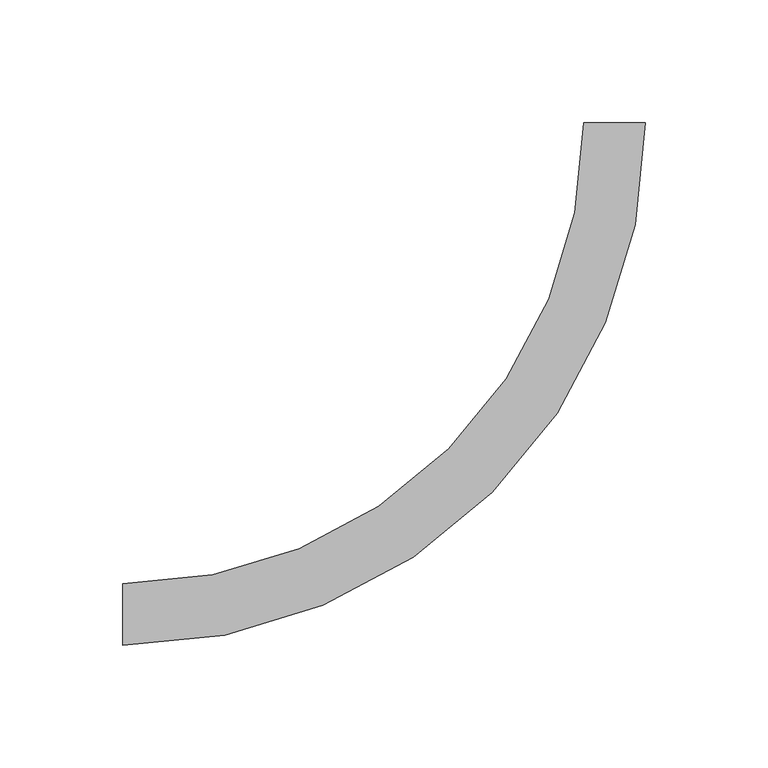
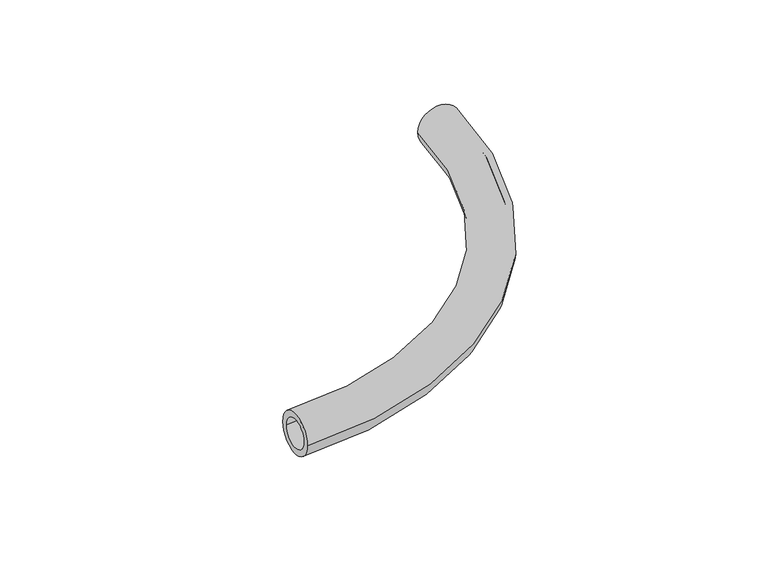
"""IFC4 building model written with IfcOpenShell, lengths in millimetres: pipe fitting geometry, FASTLOC_ML_bend : FSL ML AT."""

from ifc_helpers import new_model, si_unit, point, frame, origin, place, context, project, spatial, circle_curve, ellipse_curve, trimmed, source, transform, mapped, element, save
from ifc_brep_helpers import plane_surface, revolved_surface, advanced_brep


def pipe_fitting_31065531(model_context):
    return source(origin(), model_context, "Body", "AdvancedBrep", [
        advanced_brep(
        [(-200.0, -12.5, 0.0), (-200.0, 12.5, 0.0), (-200.0, -8.8, 0.0), (-200.0, 8.8, 0.0), (12.5, 200.0, 0.0), (-12.5, 200.0, 0.0), (8.8, 200.0, 0.0), (-8.8, 200.0, 0.0)],
        [
            (0, 1, circle_curve(frame((-200.0, 0.0, 0.0), z_axis=(-1.0, 0.0, 0.0), x_axis=(0.0, 1.0, 0.0)), 12.5)),
            (1, 0, circle_curve(frame((-200.0, 0.0, 0.0), z_axis=(-1.0, 0.0, 0.0), x_axis=(0.0, 1.0, 0.0)), 12.5)),
            (2, 3, circle_curve(frame((-200.0, 0.0, 0.0), z_axis=(1.0, 0.0, 0.0), x_axis=(0.0, 1.0, 0.0)), 8.8)),
            (3, 2, circle_curve(frame((-200.0, 0.0, 0.0), z_axis=(1.0, 0.0, 0.0), x_axis=(0.0, 1.0, 0.0)), 8.8)),
            (4, 5, circle_curve(frame((0.0, 200.0, 0.0), z_axis=(0.0, 1.0, 0.0), x_axis=(-1.0, 0.0, 0.0)), 12.5)),
            (5, 4, circle_curve(frame((0.0, 200.0, 0.0), z_axis=(0.0, 1.0, 0.0), x_axis=(-1.0, 0.0, 0.0)), 12.5)),
            (6, 7, circle_curve(frame((0.0, 200.0, 0.0), z_axis=(0.0, -1.0, 0.0), x_axis=(-1.0, 0.0, 0.0)), 8.8)),
            (7, 6, circle_curve(frame((0.0, 200.0, 0.0), z_axis=(0.0, -1.0, 0.0), x_axis=(-1.0, 0.0, 0.0)), 8.8)),
            (7, 3, circle_curve(frame((-200.0, 200.0, 0.0), z_axis=(0.0, 0.0, -1.0), x_axis=(0.0, -1.0, 0.0)), 191.2)),
            (2, 6, circle_curve(frame((-200.0, 200.0, 0.0), z_axis=(0.0, 0.0, 1.0), x_axis=(0.0, -1.0, 0.0)), 208.8)),
            (5, 1, circle_curve(frame((-200.0, 200.0, 0.0), z_axis=(0.0, 0.0, -1.0), x_axis=(0.0, -1.0, 0.0)), 187.5)),
            (0, 4, circle_curve(frame((-200.0, 200.0, 0.0), z_axis=(0.0, 0.0, 1.0), x_axis=(0.0, -1.0, 0.0)), 212.5)),
        ],
        [
            plane_surface(frame((-200.0, 0.0, 0.0), z_axis=(-1.0, 0.0, 0.0), x_axis=(0.0, 0.0, 1.0))),
            plane_surface(frame((0.0, 200.0, 0.0), z_axis=(0.0, 1.0, 0.0), x_axis=(0.0, 0.0, 1.0))),
            revolved_surface(trimmed(ellipse_curve(frame((-200.0, 0.0, 0.0), z_axis=(1.0, 0.0, 0.0), x_axis=(0.0, 1.0, 0.0)), 8.8, 8.8), [point((-200.0, -8.8, 0.0))], [point((-200.0, 8.8, 0.0))], True, "CARTESIAN"), (-200.0, 200.0, 0.0), (0.0, 0.0, 1.0)),
            revolved_surface(trimmed(ellipse_curve(frame((-200.0, 0.0, 0.0), z_axis=(1.0, 0.0, 0.0), x_axis=(0.0, 1.0, 0.0)), 8.8, 8.8), [point((-200.0, 8.8, 0.0))], [point((-200.0, -8.8, 0.0))], True, "CARTESIAN"), (-200.0, 200.0, 0.0), (0.0, 0.0, 1.0)),
            revolved_surface(trimmed(ellipse_curve(frame((-200.0, 0.0, 0.0), z_axis=(-1.0, 0.0, 0.0), x_axis=(0.0, 1.0, 0.0)), 12.5, 12.5), [point((-200.0, -12.5, 0.0))], [point((-200.0, 12.5, 0.0))], True, "CARTESIAN"), (-200.0, 200.0, 0.0), (0.0, 0.0, 1.0)),
            revolved_surface(trimmed(ellipse_curve(frame((-200.0, 0.0, 0.0), z_axis=(-1.0, 0.0, 0.0), x_axis=(0.0, 1.0, 0.0)), 12.5, 12.5), [point((-200.0, 12.5, 0.0))], [point((-200.0, -12.5, 0.0))], True, "CARTESIAN"), (-200.0, 200.0, 0.0), (0.0, 0.0, 1.0)),
        ],
        [
            (0, [[1, 2], [3, 4]]),
            (1, [[5, 6], [7, 8]]),
            (2, [[9, -3, 10, -8]]),
            (3, [[-10, -4, -9, -7]]),
            (4, [[11, -1, 12, -6]]),
            (5, [[-12, -2, -11, -5]]),
        ],
    ),
    ])


if __name__ == "__main__":
    model = new_model("IFC4")
    model_context = context("Model", 3, world=origin())
    ifc_project = project(units=[si_unit("LENGTHUNIT", "METRE", prefix="MILLI")], contexts=[model_context])
    site = spatial("IfcSite", under=ifc_project)
    building = spatial("IfcBuilding", under=site)
    placement = place(None, origin())
    pipe_fitting_shape = pipe_fitting_31065531(model_context)
    element("IfcPipeFitting", 1, ObjectType="FASTLOC_ML_bend : FSL ML AT", at=placement, inside=building, context=model_context, shape_type="MappedRepresentation", body=[
        mapped(pipe_fitting_shape, transform((0.0, 0.0, 0.0), x_axis=(1.0, 0.0, 0.0), y_axis=(0.0, 1.0, 0.0), z_axis=(0.0, 0.0, 1.0))),
    ])
    save(model, "model.ifc")
